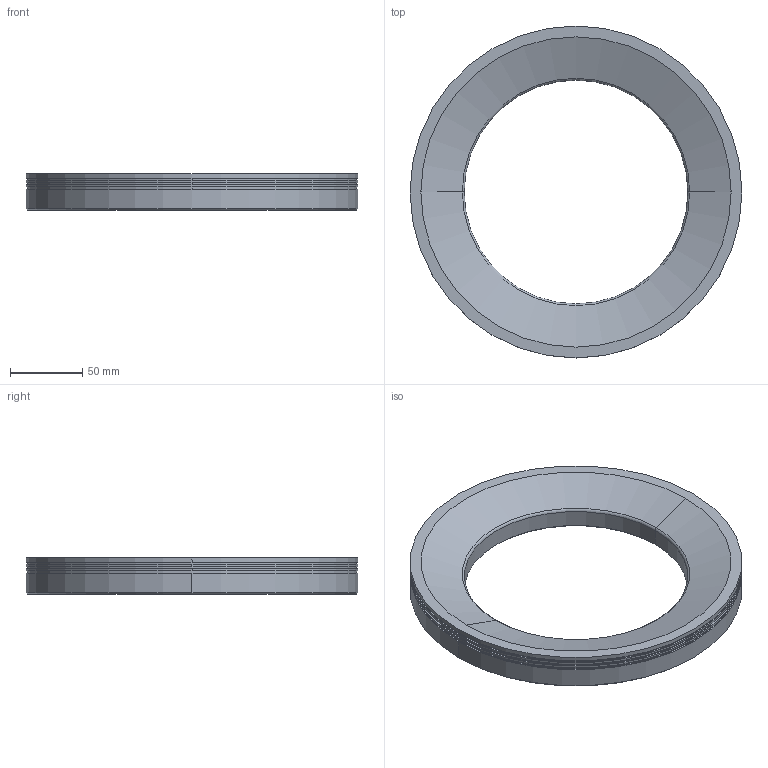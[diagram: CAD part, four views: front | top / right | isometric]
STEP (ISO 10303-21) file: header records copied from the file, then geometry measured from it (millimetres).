
FILE_DESCRIPTION((''),'2;1');
FILE_NAME('DRL7030','2020-03-28T',('ASUS'),(''),'PRO/ENGINEER BY PARAMETRIC TECHNOLOGY CORPORATION, 2008380','PRO/ENGINEER BY PARAMETRIC TECHNOLOGY CORPORATION, 2008380','');
FILE_SCHEMA(('CONFIG_CONTROL_DESIGN'));
Length unit declared in the file: millimetre
Products named in the file (1): DRL7030
Bounding box: 230 x 230 x 25 mm (x, y, z)
Volume: 472733.3 mm3; surface area: 75247.6 mm2
Topology: 1 solids, 5 shells, 68 faces, 152 edges, 92 vertices
Faces by surface type: cylinder 32, cone 22, plane 12, torus 2
Entity records: 1901 total; most frequent: DIRECTION 372, CARTESIAN_POINT 305, ORIENTED_EDGE 272, AXIS2_PLACEMENT_3D 159, EDGE_CURVE 144, VERTEX_POINT 92, CIRCLE 90, EDGE_LOOP 84
